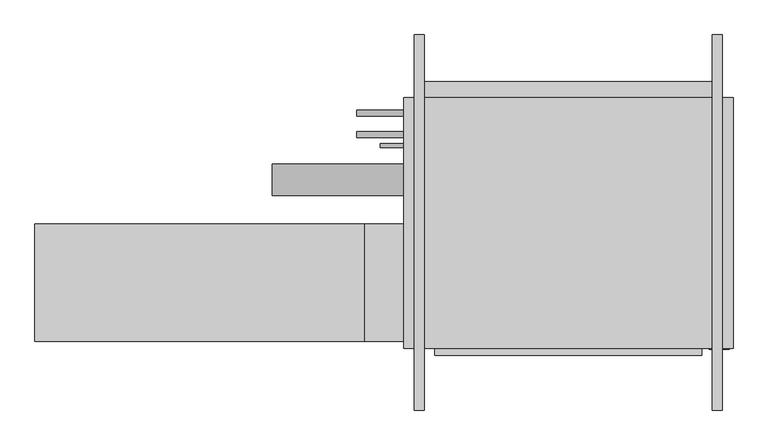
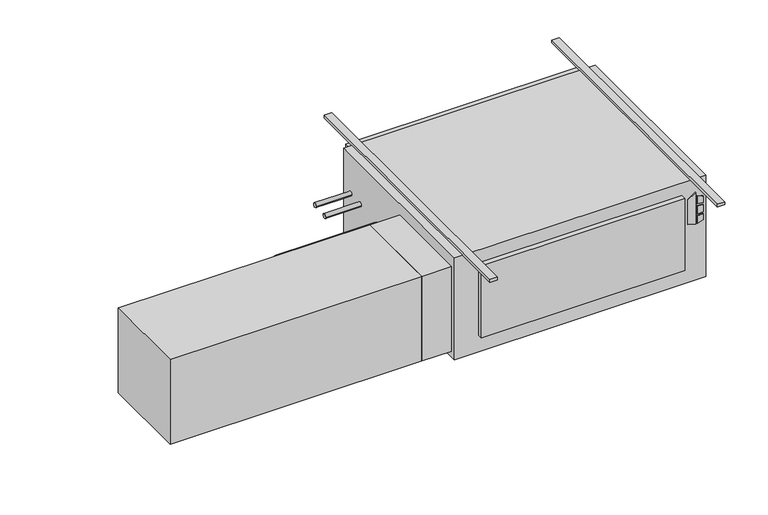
"""IFC4 building model written with IfcOpenShell, lengths in millimetres: proxy geometry."""

from ifc_helpers import new_model, si_unit, point, frame, frame_2d, origin, origin_with_axes, place, context, project, spatial, polyline, circle_curve, trimmed, segment, composite_curve, outline, extrude, source, transform, mapped, element, save


def mechanical_equipment_e087616a(model_context):
    return source(origin(), model_context, "Body", "SweptSolid", [
        extrude(outline(polyline([(-193.2519297, 608.0868862), (-203.2, 640.2602728), (-61.0290756, 640.2602728), (-84.0510817, 608.0868862), (-193.2519297, 608.0868862)])), frame((0.0, -647.7, 0.0), z_axis=(0.0, 1.0, 0.0), x_axis=(0.0, 0.0, 1.0)), (0.0, 0.0, 1.0), 3.175),
        extrude(outline(polyline([(-114.2526443, 647.0186058), (-117.4550368, 673.1), (-88.2261958, 673.1), (-80.1617807, 647.0186058), (-114.2526443, 647.0186058)])), frame((0.0, -647.7, 0.0), z_axis=(0.0, 1.0, 0.0), x_axis=(0.0, 0.0, 1.0)), (0.0, 0.0, 1.0), 3.175),
        extrude(outline(polyline([(-166.1161712, 673.1), (-169.7816721, 647.0186058), (-203.2, 647.0186058), (-194.5657628, 673.1), (-166.1161712, 673.1)])), frame((0.0, -647.7, 0.0), z_axis=(0.0, 1.0, 0.0), x_axis=(0.0, 0.0, 1.0)), (0.0, 0.0, 1.0), 3.175),
        extrude(outline(polyline([(-126.8010097, 673.1), (-124.5191834, 647.0186058), (-160.4567319, 647.0186058), (-157.7154669, 673.1), (-126.8010097, 673.1)])), frame((0.0, -647.7, 0.0), z_axis=(0.0, 1.0, 0.0), x_axis=(0.0, 0.0, 1.0)), (0.0, 0.0, 1.0), 3.175),
        extrude(outline(polyline([(584.2, -666.877), (-279.4, -666.877), (-279.4, -644.525), (584.2, -644.525), (584.2, -666.877)])), frame((0.0, 0.0, -381.0), z_axis=(0.0, 0.0, 1.0), x_axis=(1.0, 0.0, 0.0)), (0.0, 0.0, 1.0), 323.85),
        extrude(outline(polyline([(-1574.8, -622.3), (-1574.8, -241.3), (-508.0, -241.3), (-508.0, -622.3), (-1574.8, -622.3)])), frame((0.0, 0.0, -431.8), z_axis=(0.0, 0.0, 1.0), x_axis=(1.0, 0.0, 0.0)), (0.0, 0.0, 1.0), 381.0),
        extrude(outline(polyline([(-381.0, -241.3), (-381.0, -622.3), (-508.0, -622.3), (-508.0, -241.3), (-381.0, -241.3)])), frame((0.0, 0.0, -431.8), z_axis=(0.0, 0.0, 1.0), x_axis=(1.0, 0.0, 0.0)), (0.0, 0.0, 1.0), 381.0),
        extrude(outline(composite_curve([segment(trimmed(circle_curve(frame_2d((-98.4896516, -228.6360165)), 50.8), [point((-149.2896516, -228.6360165))], [point((-47.6896516, -228.6360165))], False, "CARTESIAN"), True, "CONTINUOUS"), segment(trimmed(circle_curve(frame_2d((-98.4896516, -228.6360165)), 50.8), [point((-47.6896516, -228.6360165))], [point((-149.2896516, -228.6360165))], False, "CARTESIAN"), True, "CONTINUOUS")], self_intersect=False)), frame((-806.45, 0.0, 0.0), z_axis=(1.0, 0.0, 0.0), x_axis=(0.0, 1.0, 0.0)), (0.0, 0.0, 1.0), 425.45),
        extrude(outline(composite_curve([segment(trimmed(circle_curve(frame_2d((47.625, -177.8)), 9.525), [point((38.1, -177.8))], [point((57.15, -177.8))], False, "CARTESIAN"), True, "CONTINUOUS"), segment(trimmed(circle_curve(frame_2d((47.625, -177.8)), 9.525), [point((57.15, -177.8))], [point((38.1, -177.8))], False, "CARTESIAN"), True, "CONTINUOUS")], self_intersect=False)), frame((-533.4, 0.0, 0.0), z_axis=(1.0, 0.0, 0.0), x_axis=(0.0, 1.0, 0.0)), (0.0, 0.0, 1.0), 152.4),
        extrude(outline(composite_curve([segment(trimmed(circle_curve(frame_2d((117.475, -171.45)), 9.525), [point((107.95, -171.45))], [point((127.0, -171.45))], False, "CARTESIAN"), True, "CONTINUOUS"), segment(trimmed(circle_curve(frame_2d((117.475, -171.45)), 9.525), [point((127.0, -171.45))], [point((107.95, -171.45))], False, "CARTESIAN"), True, "CONTINUOUS")], self_intersect=False)), frame((-533.4, 0.0, 0.0), z_axis=(1.0, 0.0, 0.0), x_axis=(0.0, 1.0, 0.0)), (0.0, 0.0, 1.0), 152.4),
        extrude(outline(composite_curve([segment(trimmed(circle_curve(frame_2d((12.7, -409.575)), 6.35), [point((6.35, -409.575))], [point((19.05, -409.575))], False, "CARTESIAN"), True, "CONTINUOUS"), segment(trimmed(circle_curve(frame_2d((12.7, -409.575)), 6.35), [point((19.05, -409.575))], [point((6.35, -409.575))], False, "CARTESIAN"), True, "CONTINUOUS")], self_intersect=False)), frame((-457.2, 0.0, 0.0), z_axis=(1.0, 0.0, 0.0), x_axis=(0.0, 1.0, 0.0)), (0.0, 0.0, 1.0), 76.2),
        extrude(outline(polyline([(685.8, 168.275), (685.8, -644.525), (-381.0, -644.525), (-381.0, 168.275), (685.8, 168.275)])), frame((0.0, 0.0, -457.2), z_axis=(0.0, 0.0, 1.0), x_axis=(1.0, 0.0, 0.0)), (0.0, 0.0, 1.0), 457.2),
        extrude(outline(polyline([(-342.9, 219.075), (647.7, 219.075), (647.7, 168.275), (-342.9, 168.275), (-342.9, 219.075)])), frame((0.0, 0.0, -381.0), z_axis=(0.0, 0.0, 1.0), x_axis=(1.0, 0.0, 0.0)), (0.0, 0.0, 1.0), 355.6),
        extrude(outline(polyline([(-314.325, 371.475), (-314.325, -844.677), (-346.075, -844.677), (-346.075, 371.475), (-314.325, 371.475)])), origin_with_axes(), (0.0, 0.0, 1.0), 12.7),
        extrude(outline(polyline([(650.875, 371.475), (650.875, -844.677), (619.125, -844.677), (619.125, 371.475), (650.875, 371.475)])), origin_with_axes(), (0.0, 0.0, 1.0), 12.7),
    ])


if __name__ == "__main__":
    model = new_model("IFC4")
    model_context = context("Model", 3, world=origin())
    ifc_project = project(units=[si_unit("LENGTHUNIT", "METRE", prefix="MILLI")], contexts=[model_context])
    site = spatial("IfcSite", under=ifc_project)
    building = spatial("IfcBuilding", under=site)
    placement = place(None, origin())
    mechanical_equipment_shape = mechanical_equipment_e087616a(model_context)
    element("IfcBuildingElementProxy", 1, Name="High_Capacity_Horizontal_Cabinet_Fan_Coil_Unit_-_HTY_-_IEC_-_2-Pipe_LH Side_2022 : Size 14 - 115v/60Hz/1Ph - 4/0 Coil - 4\" AirIn", ObjectType="High_Capacity_Horizontal_Cabinet_Fan_Coil_Unit_-_HTY_-_IEC_-_2-Pipe_LH Side_2022 : Size 14 - 115v/60Hz/1Ph - 4/0 Coil - 4\" AirIn", at=placement, inside=building, context=model_context, shape_type="MappedRepresentation", body=[
        mapped(mechanical_equipment_shape, transform((0.0, 0.0, 0.0), x_axis=(1.0, 0.0, 0.0), y_axis=(0.0, 1.0, 0.0), z_axis=(0.0, 0.0, 1.0))),
    ])
    save(model, "model.ifc")
